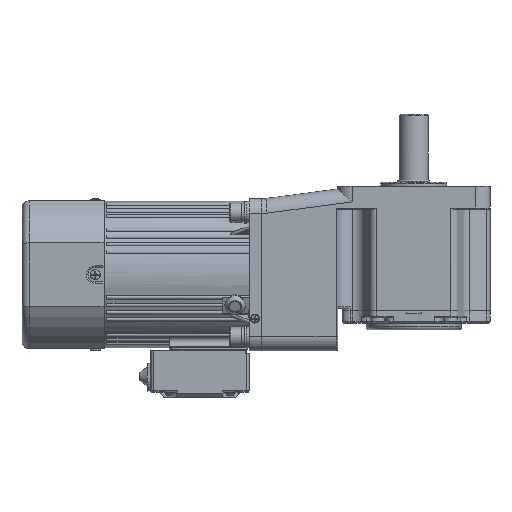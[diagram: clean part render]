
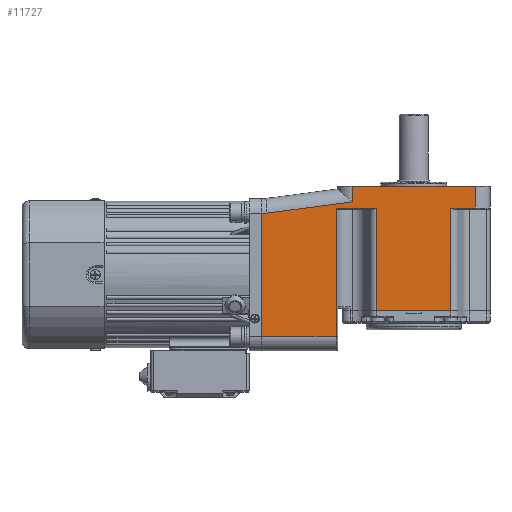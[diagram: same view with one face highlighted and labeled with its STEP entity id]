
A CAD part, front view. The second image highlights one B-rep face of the part: STEP entity #11727.
In plain terms, the highlighted planar face has unit normal (0, -1, 0).
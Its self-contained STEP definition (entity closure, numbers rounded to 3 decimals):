
#3027=PLANE('',#42220);
#4482=FACE_OUTER_BOUND('',#15358,.T.);
#6726=LINE('',#60439,#9314);
#6730=LINE('',#60477,#9318);
#6735=LINE('',#60524,#9323);
#6813=LINE('',#61208,#9401);
#6814=LINE('',#61213,#9402);
#6816=LINE('',#61222,#9404);
#6818=LINE('',#61228,#9406);
#6820=LINE('',#61231,#9408);
#6833=LINE('',#61272,#9421);
#6880=LINE('',#61647,#9468);
#6888=LINE('',#61662,#9476);
#6899=LINE('',#61697,#9487);
#6902=LINE('',#61705,#9490);
#9314=VECTOR('',#48682,1.);
#9318=VECTOR('',#48704,1.);
#9323=VECTOR('',#48725,1.);
#9401=VECTOR('',#49249,1.);
#9402=VECTOR('',#49254,1.);
#9404=VECTOR('',#49262,1.);
#9406=VECTOR('',#49268,1.);
#9408=VECTOR('',#49272,1.);
#9421=VECTOR('',#49311,1.);
#9468=VECTOR('',#49578,1.);
#9476=VECTOR('',#49598,1.);
#9487=VECTOR('',#49643,1.);
#9490=VECTOR('',#49652,1.);
#11727=ADVANCED_FACE('',(#4482),#3027,.T.);
#15358=EDGE_LOOP('',(#21690,#21691,#21692,#21693,#21694,#21695,#21696,#21697,
#21698,#21699,#21700,#21701,#21702));
#21690=ORIENTED_EDGE('',*,*,#34728,.T.);
#21691=ORIENTED_EDGE('',*,*,#34305,.T.);
#21692=ORIENTED_EDGE('',*,*,#34732,.T.);
#21693=ORIENTED_EDGE('',*,*,#34330,.T.);
#21694=ORIENTED_EDGE('',*,*,#34580,.T.);
#21695=ORIENTED_EDGE('',*,*,#34711,.F.);
#21696=ORIENTED_EDGE('',*,*,#34571,.T.);
#21697=ORIENTED_EDGE('',*,*,#34575,.T.);
#21698=ORIENTED_EDGE('',*,*,#34578,.T.);
#21699=ORIENTED_EDGE('',*,*,#34702,.F.);
#21700=ORIENTED_EDGE('',*,*,#34600,.T.);
#21701=ORIENTED_EDGE('',*,*,#34569,.T.);
#21702=ORIENTED_EDGE('',*,*,#34318,.T.);
#29830=VERTEX_POINT('',#60438);
#29831=VERTEX_POINT('',#60440);
#29842=VERTEX_POINT('',#60475);
#29844=VERTEX_POINT('',#60478);
#29850=VERTEX_POINT('',#60504);
#29853=VERTEX_POINT('',#60522);
#30019=VERTEX_POINT('',#61203);
#30021=VERTEX_POINT('',#61212);
#30022=VERTEX_POINT('',#61214);
#30025=VERTEX_POINT('',#61221);
#30026=VERTEX_POINT('',#61226);
#30028=VERTEX_POINT('',#61232);
#30043=VERTEX_POINT('',#61273);
#34305=EDGE_CURVE('',#29831,#29830,#6726,.T.);
#34318=EDGE_CURVE('',#29844,#29842,#6730,.T.);
#34330=EDGE_CURVE('',#29853,#29850,#6735,.T.);
#34569=EDGE_CURVE('',#30019,#29844,#6813,.T.);
#34571=EDGE_CURVE('',#30022,#30021,#6814,.T.);
#34575=EDGE_CURVE('',#30021,#30025,#6816,.T.);
#34578=EDGE_CURVE('',#30025,#30026,#6818,.T.);
#34580=EDGE_CURVE('',#29850,#30028,#6820,.T.);
#34600=EDGE_CURVE('',#30043,#30019,#6833,.T.);
#34702=EDGE_CURVE('',#30043,#30026,#6880,.T.);
#34711=EDGE_CURVE('',#30022,#30028,#6888,.T.);
#34728=EDGE_CURVE('',#29842,#29831,#6899,.T.);
#34732=EDGE_CURVE('',#29830,#29853,#6902,.T.);
#42220=AXIS2_PLACEMENT_3D('',#61751,#49711,#49712);
#48682=DIRECTION('',(1.,0.,0.));
#48704=DIRECTION('',(1.,0.,0.));
#48725=DIRECTION('',(1.,0.,0.));
#49249=DIRECTION('',(0.,0.,1.));
#49254=DIRECTION('',(0.,0.,-1.));
#49262=DIRECTION('',(-0.991,0.,-0.132));
#49268=DIRECTION('',(-1.,0.,0.));
#49272=DIRECTION('',(0.,0.,1.));
#49311=DIRECTION('',(1.,0.,0.));
#49578=DIRECTION('',(0.,0.,1.));
#49598=DIRECTION('',(1.,0.,0.));
#49643=DIRECTION('',(0.,0.,-1.));
#49652=DIRECTION('',(0.,0.,1.));
#49711=DIRECTION('',(0.,-1.,0.));
#49712=DIRECTION('',(0.,0.,-1.));
#60438=CARTESIAN_POINT('',(64.031,-172.671,-82.981));
#60439=CARTESIAN_POINT('',(-11.8,-172.671,-82.981));
#60440=CARTESIAN_POINT('',(13.369,-172.671,-82.981));
#60475=CARTESIAN_POINT('',(13.369,-172.671,-12.991));
#60477=CARTESIAN_POINT('',(-13.3,-172.671,-12.991));
#60478=CARTESIAN_POINT('',(-14.3,-172.671,-12.991));
#60504=CARTESIAN_POINT('',(80.7,-172.671,-12.991));
#60522=CARTESIAN_POINT('',(64.031,-172.671,-12.991));
#60524=CARTESIAN_POINT('',(-13.3,-172.671,-12.991));
#61203=CARTESIAN_POINT('',(-14.3,-172.671,-100.491));
#61208=CARTESIAN_POINT('',(-14.3,-172.671,-13.991));
#61212=CARTESIAN_POINT('',(-3.3,-172.671,-8.752));
#61213=CARTESIAN_POINT('',(-3.3,-172.671,-91.491));
#61214=CARTESIAN_POINT('',(-3.3,-172.671,2.009));
#61221=CARTESIAN_POINT('',(-61.64,-172.671,-16.491));
#61222=CARTESIAN_POINT('',(-60.985,-172.671,-16.404));
#61226=CARTESIAN_POINT('',(-65.3,-172.671,-16.491));
#61228=CARTESIAN_POINT('',(-65.3,-172.671,-16.491));
#61231=CARTESIAN_POINT('',(80.7,-172.671,-91.491));
#61232=CARTESIAN_POINT('',(80.7,-172.671,2.009));
#61272=CARTESIAN_POINT('',(-13.3,-172.671,-100.491));
#61273=CARTESIAN_POINT('',(-65.3,-172.671,-100.491));
#61647=CARTESIAN_POINT('',(-65.3,-172.671,-110.491));
#61662=CARTESIAN_POINT('',(-13.3,-172.671,2.009));
#61697=CARTESIAN_POINT('',(13.369,-172.671,-87.991));
#61705=CARTESIAN_POINT('',(64.031,-172.671,-13.991));
#61751=CARTESIAN_POINT('',(-13.3,-172.671,-91.491));
